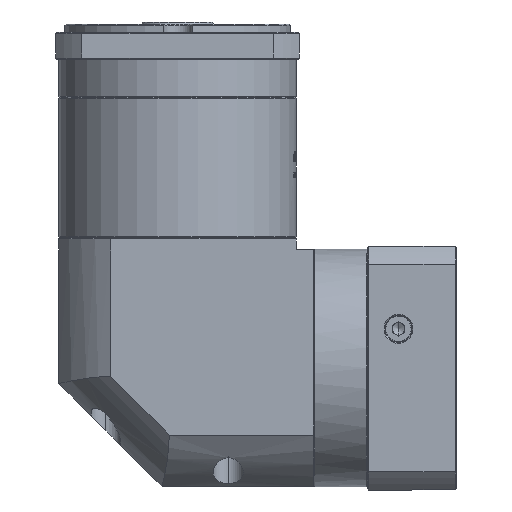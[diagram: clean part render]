
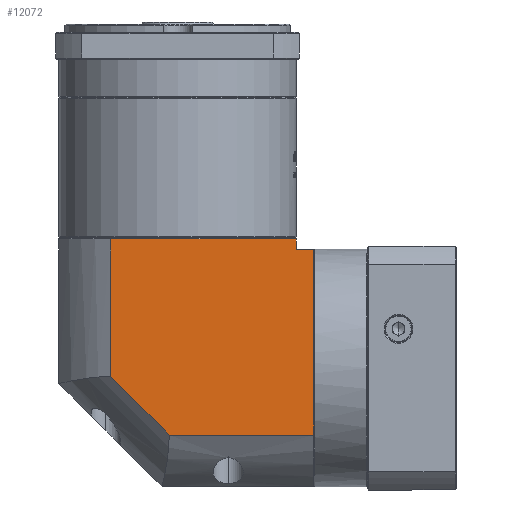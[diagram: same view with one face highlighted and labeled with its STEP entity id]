
A CAD part, left-side view. The second image highlights one B-rep face of the part: STEP entity #12072.
In plain terms, the highlighted planar face has unit normal (-1, 0, 0).
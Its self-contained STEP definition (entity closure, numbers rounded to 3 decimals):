
#2034 = DIRECTION ( 'NONE',  ( 0., 1., 0. ) ) ;
#2793 = CARTESIAN_POINT ( 'NONE',  ( -224.318, -109.021, 126.928 ) ) ;
#5982 = AXIS2_PLACEMENT_3D ( 'NONE', #101692, #77934, #2034 ) ;
#6265 = LINE ( 'NONE', #144128, #32009 ) ;
#8090 = LINE ( 'NONE', #56376, #160656 ) ;
#12072 = ADVANCED_FACE ( 'NONE', ( #153562 ), #75755, .F. ) ;
#21067 = EDGE_CURVE ( 'NONE', #42743, #33926, #6265, .T. ) ;
#26331 = CARTESIAN_POINT ( 'NONE',  ( -224.318, -39.059, 37.029 ) ) ;
#26585 = VECTOR ( 'NONE', #51757, 1000. ) ;
#28938 = LINE ( 'NONE', #61260, #116033 ) ;
#32009 = VECTOR ( 'NONE', #80501, 1000. ) ;
#33926 = VERTEX_POINT ( 'NONE', #93003 ) ;
#34693 = EDGE_LOOP ( 'NONE', ( #52944, #122242, #67129, #130671, #54596, #64683, #44433 ) ) ;
#34840 = CARTESIAN_POINT ( 'NONE',  ( -224.318, -10.721, 65.367 ) ) ;
#42743 = VERTEX_POINT ( 'NONE', #88746 ) ;
#43927 = VECTOR ( 'NONE', #157799, 1000. ) ;
#44237 = CARTESIAN_POINT ( 'NONE',  ( -224.318, -10.721, 138.428 ) ) ;
#44433 = ORIENTED_EDGE ( 'NONE', *, *, #56035, .F. ) ;
#44828 = EDGE_CURVE ( 'NONE', #54032, #114000, #8090, .T. ) ;
#51757 = DIRECTION ( 'NONE',  ( 0., -1., 0. ) ) ;
#52944 = ORIENTED_EDGE ( 'NONE', *, *, #142581, .F. ) ;
#54032 = VERTEX_POINT ( 'NONE', #160314 ) ;
#54596 = ORIENTED_EDGE ( 'NONE', *, *, #163686, .T. ) ;
#55071 = CARTESIAN_POINT ( 'NONE',  ( -224.318, -109.021, 138.428 ) ) ;
#56035 = EDGE_CURVE ( 'NONE', #135076, #33926, #163429, .T. ) ;
#56376 = CARTESIAN_POINT ( 'NONE',  ( -224.318, 14.379, 37.029 ) ) ;
#59863 = CARTESIAN_POINT ( 'NONE',  ( -224.318, -39.059, 37.029 ) ) ;
#59871 = LINE ( 'NONE', #44237, #43927 ) ;
#61260 = CARTESIAN_POINT ( 'NONE',  ( -224.318, -100.621, 126.928 ) ) ;
#61369 = EDGE_CURVE ( 'NONE', #114000, #160531, #120011, .T. ) ;
#64683 = ORIENTED_EDGE ( 'NONE', *, *, #21067, .T. ) ;
#67129 = ORIENTED_EDGE ( 'NONE', *, *, #44828, .F. ) ;
#75755 = PLANE ( 'NONE',  #5982 ) ;
#77934 = DIRECTION ( 'NONE',  ( 1., 0., 0. ) ) ;
#80501 = DIRECTION ( 'NONE',  ( 0., 0., 1. ) ) ;
#83701 = DIRECTION ( 'NONE',  ( 0., 0.707, 0.707 ) ) ;
#88746 = CARTESIAN_POINT ( 'NONE',  ( -224.318, -100.621, 126.928 ) ) ;
#93003 = CARTESIAN_POINT ( 'NONE',  ( -224.318, -100.621, 131.928 ) ) ;
#101692 = CARTESIAN_POINT ( 'NONE',  ( -224.318, 14.379, 138.428 ) ) ;
#106245 = VECTOR ( 'NONE', #119842, 1000. ) ;
#114000 = VERTEX_POINT ( 'NONE', #26331 ) ;
#116033 = VECTOR ( 'NONE', #150381, 1000. ) ;
#119842 = DIRECTION ( 'NONE',  ( 0., 0., -1. ) ) ;
#120011 = LINE ( 'NONE', #59863, #137794 ) ;
#122242 = ORIENTED_EDGE ( 'NONE', *, *, #61369, .F. ) ;
#125815 = VERTEX_POINT ( 'NONE', #2793 ) ;
#130671 = ORIENTED_EDGE ( 'NONE', *, *, #153002, .F. ) ;
#134046 = LINE ( 'NONE', #55071, #106245 ) ;
#135076 = VERTEX_POINT ( 'NONE', #158573 ) ;
#137794 = VECTOR ( 'NONE', #83701, 1000. ) ;
#140843 = CARTESIAN_POINT ( 'NONE',  ( -224.318, 14.379, 131.928 ) ) ;
#142581 = EDGE_CURVE ( 'NONE', #160531, #135076, #59871, .T. ) ;
#144128 = CARTESIAN_POINT ( 'NONE',  ( -224.318, -100.621, 11.928 ) ) ;
#144960 = DIRECTION ( 'NONE',  ( 0., 1., 0. ) ) ;
#150381 = DIRECTION ( 'NONE',  ( 0., 1., 0. ) ) ;
#153002 = EDGE_CURVE ( 'NONE', #125815, #54032, #134046, .T. ) ;
#153562 = FACE_OUTER_BOUND ( 'NONE', #34693, .T. ) ;
#157799 = DIRECTION ( 'NONE',  ( 0., 0., 1. ) ) ;
#158573 = CARTESIAN_POINT ( 'NONE',  ( -224.318, -10.721, 131.928 ) ) ;
#160314 = CARTESIAN_POINT ( 'NONE',  ( -224.318, -109.021, 37.029 ) ) ;
#160531 = VERTEX_POINT ( 'NONE', #34840 ) ;
#160656 = VECTOR ( 'NONE', #144960, 1000. ) ;
#163429 = LINE ( 'NONE', #140843, #26585 ) ;
#163686 = EDGE_CURVE ( 'NONE', #125815, #42743, #28938, .T. ) ;
